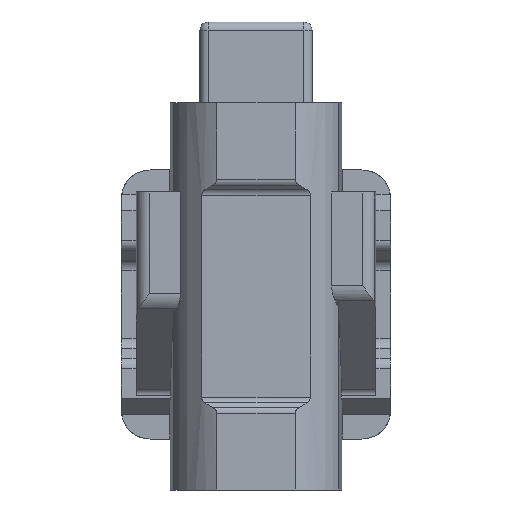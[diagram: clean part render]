
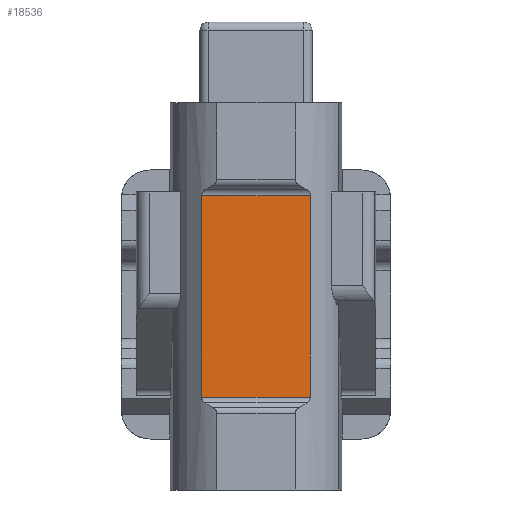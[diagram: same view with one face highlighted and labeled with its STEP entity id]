
A CAD part, front view. The second image highlights one B-rep face of the part: STEP entity #18536.
In plain terms, the highlighted planar face has unit normal (0, -1, 0).
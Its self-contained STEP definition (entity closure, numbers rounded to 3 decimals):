
#112 = CARTESIAN_POINT ( 'NONE',  ( 13.332, -5.7, 26.712 ) ) ;
#276 = EDGE_CURVE ( 'NONE', #19934, #10102, #16743, .T. ) ;
#446 = LINE ( 'NONE', #6861, #1021 ) ;
#575 = CARTESIAN_POINT ( 'NONE',  ( 13.332, -5.7, -22.712 ) ) ;
#627 = VERTEX_POINT ( 'NONE', #112 ) ;
#1020 = DIRECTION ( 'NONE',  ( 0., -1., 0. ) ) ;
#1021 = VECTOR ( 'NONE', #19693, 1000. ) ;
#1777 = CARTESIAN_POINT ( 'NONE',  ( 13.332, -5.7, -22.712 ) ) ;
#3175 = CARTESIAN_POINT ( 'NONE',  ( -13.332, -5.7, -22.712 ) ) ;
#3846 = CARTESIAN_POINT ( 'NONE',  ( 33.051, -5.7, 27.54 ) ) ;
#5496 = DIRECTION ( 'NONE',  ( 1., 0., 0. ) ) ;
#5512 = LINE ( 'NONE', #11931, #18508 ) ;
#6702 = CARTESIAN_POINT ( 'NONE',  ( -13.332, -5.7, -45.5 ) ) ;
#6861 = CARTESIAN_POINT ( 'NONE',  ( -13.332, -5.7, 26.712 ) ) ;
#7116 = DIRECTION ( 'NONE',  ( 0., 0., -1. ) ) ;
#7183 = ORIENTED_EDGE ( 'NONE', *, *, #276, .T. ) ;
#7327 = EDGE_CURVE ( 'NONE', #19934, #13678, #16371, .T. ) ;
#8051 = ORIENTED_EDGE ( 'NONE', *, *, #7327, .F. ) ;
#8196 = ORIENTED_EDGE ( 'NONE', *, *, #9361, .T. ) ;
#8561 = EDGE_CURVE ( 'NONE', #627, #13678, #446, .T. ) ;
#9361 = EDGE_CURVE ( 'NONE', #10102, #627, #5512, .T. ) ;
#10102 = VERTEX_POINT ( 'NONE', #1777 ) ;
#11240 = DIRECTION ( 'NONE',  ( 0., 0., 1. ) ) ;
#11931 = CARTESIAN_POINT ( 'NONE',  ( 13.332, -5.7, -45.5 ) ) ;
#13678 = VERTEX_POINT ( 'NONE', #15385 ) ;
#15385 = CARTESIAN_POINT ( 'NONE',  ( -13.332, -5.7, 26.712 ) ) ;
#15411 = PLANE ( 'NONE',  #18247 ) ;
#16061 = ORIENTED_EDGE ( 'NONE', *, *, #8561, .T. ) ;
#16371 = LINE ( 'NONE', #6702, #18174 ) ;
#16743 = LINE ( 'NONE', #575, #18925 ) ;
#18174 = VECTOR ( 'NONE', #11240, 1000. ) ;
#18247 = AXIS2_PLACEMENT_3D ( 'NONE', #3846, #1020, #7116 ) ;
#18353 = DIRECTION ( 'NONE',  ( 0., 0., 1. ) ) ;
#18508 = VECTOR ( 'NONE', #18353, 1000. ) ;
#18536 = ADVANCED_FACE ( 'NONE', ( #20046 ), #15411, .T. ) ;
#18925 = VECTOR ( 'NONE', #5496, 1000. ) ;
#19693 = DIRECTION ( 'NONE',  ( -1., 0., 0. ) ) ;
#19934 = VERTEX_POINT ( 'NONE', #3175 ) ;
#19942 = EDGE_LOOP ( 'NONE', ( #8051, #7183, #8196, #16061 ) ) ;
#20046 = FACE_OUTER_BOUND ( 'NONE', #19942, .T. ) ;
